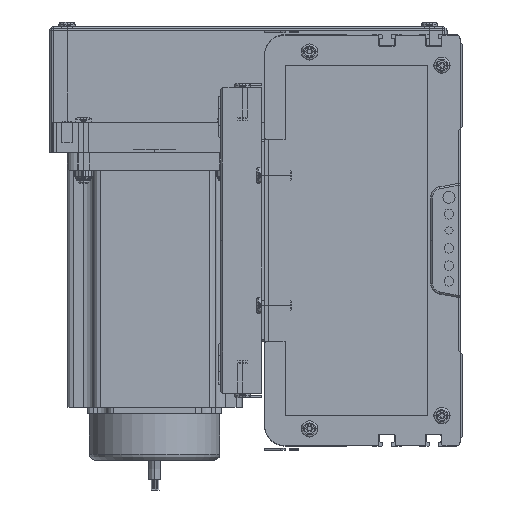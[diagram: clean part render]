
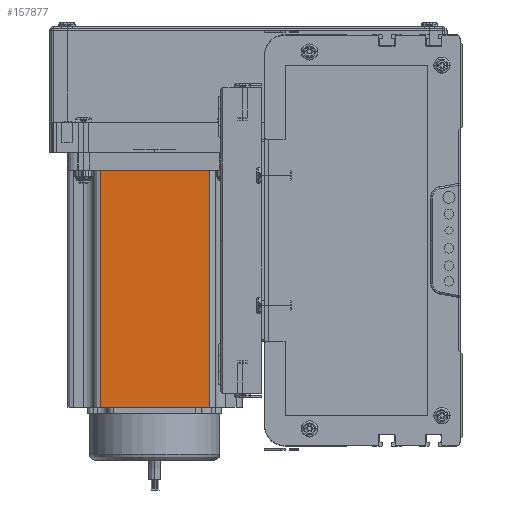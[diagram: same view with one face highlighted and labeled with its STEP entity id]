
A CAD part, left-side view. The second image highlights one B-rep face of the part: STEP entity #157877.
In plain terms, the highlighted planar face has unit normal (-1, 0, 0) as drawn and (0, -1, 0) by its records, which use the part's own axes.
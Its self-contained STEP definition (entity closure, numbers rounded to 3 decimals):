
#38188 = LINE ( 'NONE', #38200, #38197 ) ;
#38197 = VECTOR ( 'NONE', #38205, 1000. ) ;
#38200 = CARTESIAN_POINT ( 'NONE',  ( 0., 0., 0. ) ) ;
#38205 = DIRECTION ( 'NONE',  ( 1., 0., 0. ) ) ;
#38276 = CARTESIAN_POINT ( 'NONE',  ( 69.74, 0., 0. ) ) ;
#39017 = CARTESIAN_POINT ( 'NONE',  ( 16.16, 0., 0. ) ) ;
#39044 = FACE_OUTER_BOUND ( 'NONE', #157875, .T. ) ;
#39056 = DIRECTION ( 'NONE',  ( 0., 0., 1. ) ) ;
#39057 = CARTESIAN_POINT ( 'NONE',  ( 69.74, 0., 116.5 ) ) ;
#39068 = PLANE ( 'NONE',  #39248 ) ;
#39122 = DIRECTION ( 'NONE',  ( 0., 0., -1. ) ) ;
#39124 = VECTOR ( 'NONE', #39122, 1000. ) ;
#39187 = CARTESIAN_POINT ( 'NONE',  ( 69.74, 0., 116.5 ) ) ;
#39238 = VECTOR ( 'NONE', #39056, 1000. ) ;
#39248 = AXIS2_PLACEMENT_3D ( 'NONE', #39253, #39321, #39293 ) ;
#39253 = CARTESIAN_POINT ( 'NONE',  ( 0., 0., 116.5 ) ) ;
#39293 = DIRECTION ( 'NONE',  ( 0., 0., 1. ) ) ;
#39310 = CARTESIAN_POINT ( 'NONE',  ( 16.16, 0., 116.5 ) ) ;
#39313 = LINE ( 'NONE', #39057, #39238 ) ;
#39321 = DIRECTION ( 'NONE',  ( 0., 1., 0. ) ) ;
#39381 = CARTESIAN_POINT ( 'NONE',  ( 16.16, 0., 116.5 ) ) ;
#39385 = DIRECTION ( 'NONE',  ( 1., 0., 0. ) ) ;
#39386 = VECTOR ( 'NONE', #39385, 1000. ) ;
#39388 = CARTESIAN_POINT ( 'NONE',  ( 0., 0., 116.5 ) ) ;
#39392 = LINE ( 'NONE', #39388, #39386 ) ;
#39394 = LINE ( 'NONE', #39381, #39124 ) ;
#157521 = VERTEX_POINT ( 'NONE', #38276 ) ;
#157715 = EDGE_CURVE ( 'NONE', #157745, #157521, #38188, .T. ) ;
#157744 = VERTEX_POINT ( 'NONE', #39187 ) ;
#157745 = VERTEX_POINT ( 'NONE', #39017 ) ;
#157827 = EDGE_CURVE ( 'NONE', #157878, #157744, #39392, .T. ) ;
#157829 = ORIENTED_EDGE ( 'NONE', *, *, #157827, .F. ) ;
#157830 = EDGE_CURVE ( 'NONE', #157878, #157745, #39394, .T. ) ;
#157833 = ORIENTED_EDGE ( 'NONE', *, *, #157715, .T. ) ;
#157875 = EDGE_LOOP ( 'NONE', ( #157833, #157879, #157829, #157891 ) ) ;
#157877 = ADVANCED_FACE ( 'NONE', ( #39044 ), #39068, .F. ) ;
#157878 = VERTEX_POINT ( 'NONE', #39310 ) ;
#157879 = ORIENTED_EDGE ( 'NONE', *, *, #157881, .T. ) ;
#157881 = EDGE_CURVE ( 'NONE', #157521, #157744, #39313, .T. ) ;
#157891 = ORIENTED_EDGE ( 'NONE', *, *, #157830, .T. ) ;
